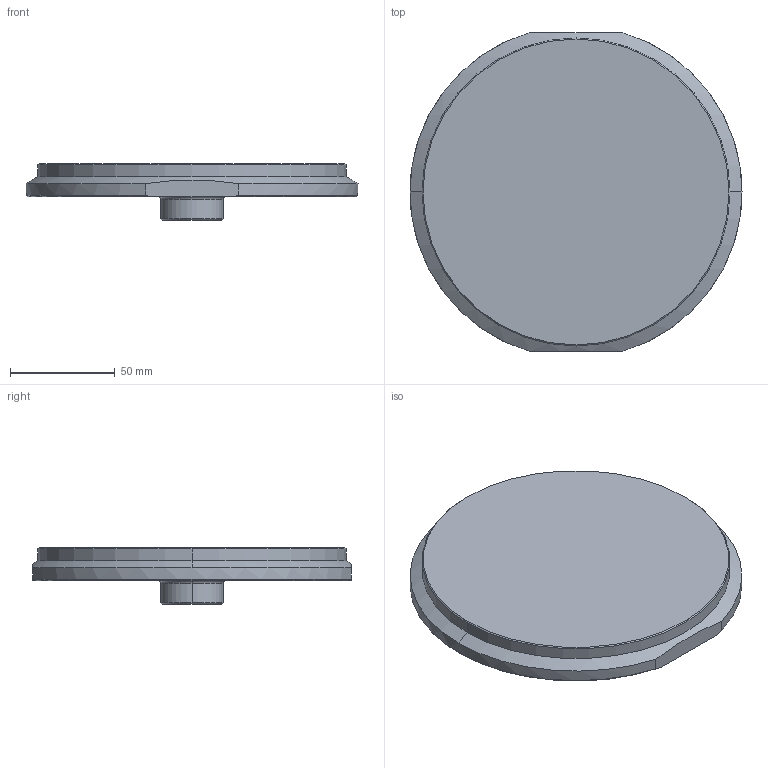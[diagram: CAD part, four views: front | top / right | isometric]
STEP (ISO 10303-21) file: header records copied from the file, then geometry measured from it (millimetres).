
FILE_DESCRIPTION((''),'2;1');
FILE_NAME('RMC-8006','2007-09-26T',('glafferty'),('Pleasant Precision, Inc. (419)675-0556'),'PRO/ENGINEER BY PARAMETRIC TECHNOLOGY CORPORATION, 2006080','PRO/ENGINEER BY PARAMETRIC TECHNOLOGY CORPORATION, 2006080','');
FILE_SCHEMA(('CONFIG_CONTROL_DESIGN'));
Length unit declared in the file: inch
Products named in the file (1): RMC-8006
Bounding box: 158.75 x 152.4 x 27.1 mm (x, y, z)
Volume: 294503.2 mm3; surface area: 47816.3 mm2
Topology: 1 solids, 2 shells, 31 faces, 70 edges, 43 vertices
Faces by surface type: cylinder 12, cone 10, plane 7, torus 2
Entity records: 932 total; most frequent: CARTESIAN_POINT 177, DIRECTION 164, ORIENTED_EDGE 132, AXIS2_PLACEMENT_3D 70, EDGE_CURVE 68, VERTEX_POINT 43, CIRCLE 38, EDGE_LOOP 35
